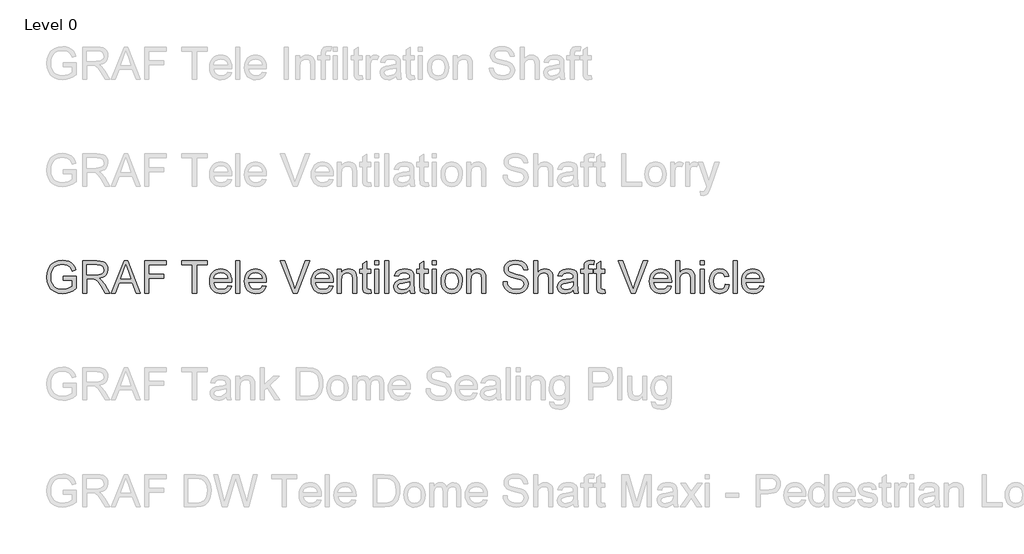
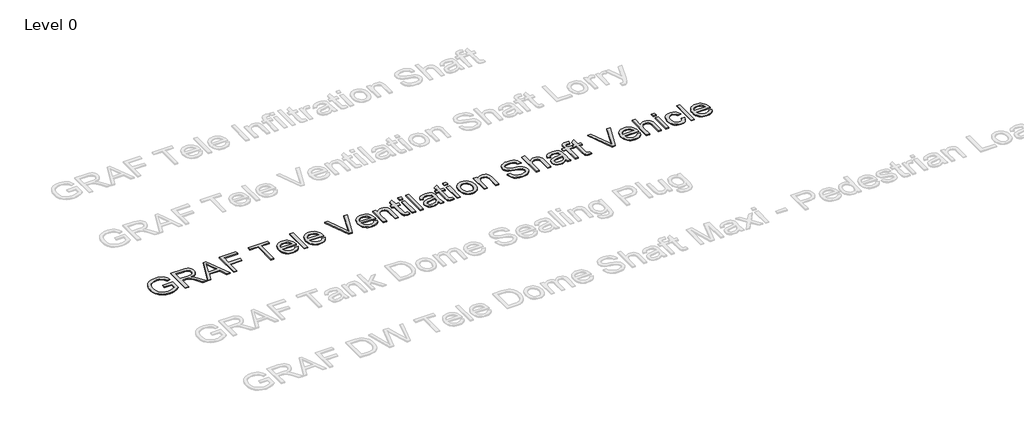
# One storey, part 2 of 25: 1 proxy.
"""IFC4 building model written with IfcOpenShell, lengths in millimetres."""

from ifc_helpers import new_model, si_unit, origin, origin_with_axes, place, context, project, spatial, polyline, outline, extrude, element, save

model = new_model("IFC4")

# Units and contexts
model_context = context("Model", 3, world=origin())
ifc_project = project(units=[si_unit("LENGTHUNIT", "METRE", prefix="MILLI")], contexts=[model_context])

# Site, building, storey
site = spatial("IfcSite", under=ifc_project)
building = spatial("IfcBuilding", under=site)
storey = spatial("IfcBuildingStorey", under=building, Name="Level 0", Elevation=0.0)

# Proxy
placement = place(None, origin())
element("IfcBuildingElementProxy", 1, Name="300mm Arial", ObjectType="300mm Arial", at=placement, inside=storey, context=model_context, shape_type="SweptSolid", body=[
    extrude(outline(polyline([(-15240.9940387, -8083.2545597), (-15240.9940387, -8045.5834434), (-15118.5629107, -8045.5834434), (-15118.5629107, -8158.2289103), (-15148.3153671, -8178.9222726), (-15179.0059225, -8193.7663111), (-15210.5610007, -8202.7058436), (-15242.9070251, -8205.6856877), (-15285.1674693, -8200.949207), (-15323.3628175, -8186.739765), (-15355.0926395, -8163.5540022), (-15377.9565055, -8131.8885595), (-15391.7796715, -8093.9047435), (-15396.3873935, -8051.7638609), (-15391.7980656, -8009.3194757), (-15378.0300819, -7969.8365406), (-15355.6536596, -7936.717964), (-15325.2390156, -7913.3666543), (-15288.1932987, -7899.5158972), (-15245.9236575, -7894.8989782), (-15214.8928112, -7897.5753197), (-15186.9889618, -7905.6043443), (-15163.4904994, -7918.4066377), (-15145.6758138, -7935.4027859), (-15132.4964413, -7957.4113262), (-15122.9039183, -7985.2507962), (-15157.6319786, -7995.0364573), (-15165.3850917, -7975.1800266), (-15174.8120678, -7960.1980323), (-15187.2832674, -7948.9040551), (-15204.169051, -7940.1116754), (-15224.3013932, -7934.4554897), (-15246.5122687, -7932.5700945), (-15272.5123287, -7934.6026425), (-15294.7415982, -7940.7002866), (-15313.1173039, -7950.0996716), (-15327.5566722, -7962.0374423), (-15346.9440533, -7991.0633317), (-15355.7732212, -8019.50061), (-15358.7162772, -8050.2187566), (-15355.175413, -8086.2436009), (-15344.5528204, -8115.8856927), (-15327.1703961, -8138.9334997), (-15303.3500369, -8155.1754898), (-15275.4737787, -8164.804801), (-15245.9236575, -8168.0145714), (-15219.831627, -8165.5957473), (-15194.3833899, -8158.3392749), (-15172.2828791, -8148.3420817), (-15156.234027, -8137.701095), (-15156.234027, -8083.2545597), (-15240.9940387, -8083.2545597)])), origin_with_axes(), (0.0, 0.0, 1.0), 10.0),
    extrude(outline(polyline([(-15057.3473467, -8200.9767982), (-15057.3473467, -7899.6078677), (-14927.4850024, -7899.6078677), (-14892.5821982, -7901.6404158), (-14867.1891434, -7907.7380598), (-14848.6294968, -7918.9952489), (-14834.2269167, -7936.5064318), (-14824.9838815, -7958.2206666), (-14821.9028698, -7982.087011), (-14827.0072325, -8011.7750881), (-14842.3203206, -8036.3863935), (-14853.9200997, -8046.4157764), (-14868.3019865, -8054.4310054), (-14905.4120827, -8064.4190016), (-14884.0013506, -8080.532233), (-14853.467145, -8119.3069952), (-14803.2144645, -8200.9767982), (-14846.9924219, -8200.9767982), (-14886.2086426, -8138.5104354), (-14914.5355562, -8097.1604991), (-14934.4379722, -8077.6259652), (-14952.3538253, -8070.4522663), (-14974.2060158, -8069.1278911), (-15019.6762304, -8069.1278911), (-15019.6762304, -8200.9767982), (-15057.3473467, -8200.9767982)]), holes=[polyline([(-15019.6762304, -8031.4567748), (-14935.3576771, -8031.4567748), (-14911.1418448, -8030.1232026), (-14892.3522719, -8026.1224859), (-14878.2072092, -8019.1879103), (-14867.9249074, -8009.0527613), (-14861.6617165, -7996.7930938), (-14859.5739861, -7983.4849626), (-14863.5563087, -7965.109257), (-14875.5032765, -7950.3020067), (-14896.058683, -7940.5347397), (-14925.8663217, -7937.278984), (-15019.6762304, -7937.278984), (-15019.6762304, -8031.4567748)])]), origin_with_axes(), (0.0, 0.0, 1.0), 10.0),
    extrude(outline(polyline([(-14791.0743586, -8200.9767982), (-14670.7769462, -7899.6078677), (-14638.6976362, -7899.6078677), (-14518.4002238, -8200.9767982), (-14558.2050557, -8200.9767982), (-14592.7123868, -8106.7990074), (-14716.835772, -8106.7990074), (-14751.2695268, -8200.9767982), (-14791.0743586, -8200.9767982)]), holes=[polyline([(-14703.003409, -8069.1278911), (-14606.4711735, -8069.1278911), (-14633.6208647, -7995.0364573), (-14654.7372912, -7937.278984), (-14673.499273, -7988.5617342), (-14703.003409, -8069.1278911)])]), origin_with_axes(), (0.0, 0.0, 1.0), 10.0),
    extrude(outline(polyline([(-14478.1539335, -8200.9767982), (-14478.1539335, -7899.6078677), (-14275.6716834, -7899.6078677), (-14275.6716834, -7937.278984), (-14440.4828172, -7937.278984), (-14440.4828172, -8026.7478853), (-14299.2161311, -8026.7478853), (-14299.2161311, -8064.4190016), (-14440.4828172, -8064.4190016), (-14440.4828172, -8200.9767982), (-14478.1539335, -8200.9767982)])), origin_with_axes(), (0.0, 0.0, 1.0), 10.0),
    extrude(outline(polyline([(-14030.8094274, -8200.9767982), (-14030.8094274, -7937.278984), (-14129.6961077, -7937.278984), (-14129.6961077, -7899.6078677), (-13894.2516308, -7899.6078677), (-13894.2516308, -7937.278984), (-13993.1383111, -7937.278984), (-13993.1383111, -8200.9767982), (-14030.8094274, -8200.9767982)])), origin_with_axes(), (0.0, 0.0, 1.0), 10.0),
    extrude(outline(polyline([(-13701.6286181, -8135.0523446), (-13664.6932658, -8139.7612342), (-13678.001397, -8167.5915071), (-13699.2373851, -8188.3952339), (-13727.9229837, -8201.3630743), (-13763.5799461, -8205.6856877), (-13786.9542484, -8203.8209859), (-13807.7809678, -8198.2268803), (-13826.0601045, -8188.9033709), (-13841.7916583, -8175.8504579), (-13854.4422004, -8159.4314246), (-13863.4783019, -8140.0095545), (-13868.8999628, -8117.5848477), (-13870.7071831, -8092.157304), (-13868.8815687, -8065.8675369), (-13863.4047255, -8042.6955698), (-13854.2766535, -8022.6414025), (-13841.4973527, -8005.7050351), (-13825.8071856, -7992.2497512), (-13807.9465147, -7982.638834), (-13787.9153401, -7976.8722838), (-13765.7136617, -7974.9501003), (-13744.2270539, -7976.8676852), (-13724.7959868, -7982.6204399), (-13707.4204603, -7992.2083644), (-13692.1004744, -8005.6314587), (-13679.5947859, -8022.5310379), (-13670.6621512, -8042.548417), (-13665.3025704, -8065.6835959), (-13663.5160434, -8091.9365748), (-13663.7367726, -8102.0901179), (-13833.0360668, -8102.0901179), (-13826.5153584, -8130.2882728), (-13811.3678173, -8151.0184232), (-13789.5064297, -8163.7655344), (-13762.8441821, -8168.0145714), (-13742.7946134, -8166.0464027), (-13725.9088298, -8160.1418967), (-13712.1868314, -8149.9331713), (-13701.6286181, -8135.0523446)]), holes=[polyline([(-13833.0360668, -8064.4190016), (-13701.1871597, -8064.4190016), (-13706.2823254, -8044.5165856), (-13716.2703215, -8030.2795524), (-13738.2328766, -8017.0358006), (-13765.8608145, -8012.6212166), (-13791.2538692, -8016.1436868), (-13812.2507341, -8026.7110971), (-13826.8464522, -8043.1830134), (-13833.0360668, -8064.4190016)])]), origin_with_axes(), (0.0, 0.0, 1.0), 10.0),
    extrude(outline(polyline([(-13625.8449271, -8200.9767982), (-13625.8449271, -7899.6078677), (-13588.1738108, -7899.6078677), (-13588.1738108, -8200.9767982), (-13625.8449271, -8200.9767982)])), origin_with_axes(), (0.0, 0.0, 1.0), 10.0),
    extrude(outline(polyline([(-13376.71524, -8135.0523446), (-13339.7798877, -8139.7612342), (-13353.0880188, -8167.5915071), (-13374.324007, -8188.3952339), (-13403.0096056, -8201.3630743), (-13438.666568, -8205.6856877), (-13462.0408702, -8203.8209859), (-13482.8675897, -8198.2268803), (-13501.1467263, -8188.9033709), (-13516.8782801, -8175.8504579), (-13529.5288222, -8159.4314246), (-13538.5649238, -8140.0095545), (-13543.9865847, -8117.5848477), (-13545.793805, -8092.157304), (-13543.9681906, -8065.8675369), (-13538.4913474, -8042.6955698), (-13529.3632754, -8022.6414025), (-13516.5839745, -8005.7050351), (-13500.8938074, -7992.2497512), (-13483.0331366, -7982.638834), (-13463.0019619, -7976.8722838), (-13440.8002835, -7974.9501003), (-13419.3136758, -7976.8676852), (-13399.8826086, -7982.6204399), (-13382.5070821, -7992.2083644), (-13367.1870963, -8005.6314587), (-13354.6814077, -8022.5310379), (-13345.748773, -8042.548417), (-13340.3891922, -8065.6835959), (-13338.6026653, -8091.9365748), (-13338.8233945, -8102.0901179), (-13508.1226887, -8102.0901179), (-13501.6019803, -8130.2882728), (-13486.4544391, -8151.0184232), (-13464.5930516, -8163.7655344), (-13437.930804, -8168.0145714), (-13417.8812352, -8166.0464027), (-13400.9954517, -8160.1418967), (-13387.2734532, -8149.9331713), (-13376.71524, -8135.0523446)]), holes=[polyline([(-13508.1226887, -8064.4190016), (-13376.2737816, -8064.4190016), (-13381.3689472, -8044.5165856), (-13391.3569434, -8030.2795524), (-13413.3194985, -8017.0358006), (-13440.9474363, -8012.6212166), (-13466.3404911, -8016.1436868), (-13487.3373559, -8026.7110971), (-13501.9330741, -8043.1830134), (-13508.1226887, -8064.4190016)])]), origin_with_axes(), (0.0, 0.0, 1.0), 10.0),
    extrude(outline(polyline([(-13089.4729781, -8200.9767982), (-13209.4025086, -7899.6078677), (-13169.0826419, -7899.6078677), (-13088.8107906, -8116.7318213), (-13072.5504064, -8165.6601266), (-13056.5107514, -8116.7318213), (-12976.0181708, -7899.6078677), (-12935.6983042, -7899.6078677), (-13050.5510631, -8200.9767982), (-13089.4729781, -8200.9767982)])), origin_with_axes(), (0.0, 0.0, 1.0), 10.0),
    extrude(outline(polyline([(-12750.4329314, -8135.0523446), (-12713.4975791, -8139.7612342), (-12726.8057102, -8167.5915071), (-12748.0416984, -8188.3952339), (-12776.727297, -8201.3630743), (-12812.3842594, -8205.6856877), (-12835.7585616, -8203.8209859), (-12856.5852811, -8198.2268803), (-12874.8644177, -8188.9033709), (-12890.5959716, -8175.8504579), (-12903.2465137, -8159.4314246), (-12912.2826152, -8140.0095545), (-12917.7042761, -8117.5848477), (-12919.5114964, -8092.157304), (-12917.685882, -8065.8675369), (-12912.2090388, -8042.6955698), (-12903.0809668, -8022.6414025), (-12890.301666, -8005.7050351), (-12874.6114989, -7992.2497512), (-12856.750828, -7982.638834), (-12836.7196534, -7976.8722838), (-12814.5179749, -7974.9501003), (-12793.0313672, -7976.8676852), (-12773.6003, -7982.6204399), (-12756.2247736, -7992.2083644), (-12740.9047877, -8005.6314587), (-12728.3990991, -8022.5310379), (-12719.4664644, -8042.548417), (-12714.1068836, -8065.6835959), (-12712.3203567, -8091.9365748), (-12712.5410859, -8102.0901179), (-12881.8403801, -8102.0901179), (-12875.3196717, -8130.2882728), (-12860.1721306, -8151.0184232), (-12838.310743, -8163.7655344), (-12811.6484954, -8168.0145714), (-12791.5989266, -8166.0464027), (-12774.7131431, -8160.1418967), (-12760.9911447, -8149.9331713), (-12750.4329314, -8135.0523446)]), holes=[polyline([(-12881.8403801, -8064.4190016), (-12749.991473, -8064.4190016), (-12755.0866386, -8044.5165856), (-12765.0746348, -8030.2795524), (-12787.0371899, -8017.0358006), (-12814.6651277, -8012.6212166), (-12840.0581825, -8016.1436868), (-12861.0550473, -8026.7110971), (-12875.6507655, -8043.1830134), (-12881.8403801, -8064.4190016)])]), origin_with_axes(), (0.0, 0.0, 1.0), 10.0),
    extrude(outline(polyline([(-12674.6492404, -8200.9767982), (-12674.6492404, -7979.6589899), (-12636.9781241, -7979.6589899), (-12636.9781241, -8010.5610775), (-12623.8907221, -7994.981275), (-12608.1729639, -7983.8528446), (-12589.8248493, -7977.1757864), (-12568.8463786, -7974.9501003), (-12550.2775349, -7976.7435251), (-12533.2721896, -7982.1237992), (-12519.0903387, -7990.4195382), (-12508.991978, -8000.9593574), (-12497.6980007, -8028.6608716), (-12495.7114379, -8065.0811892), (-12495.7114379, -8200.9767982), (-12533.3825542, -8200.9767982), (-12533.3825542, -8070.1579607), (-12537.7235618, -8036.8278519), (-12543.7292353, -8026.9042351), (-12553.064241, -8019.2063044), (-12565.0296029, -8014.2674886), (-12578.9263452, -8012.6212166), (-12600.9900679, -8016.3184307), (-12619.7980349, -8027.4100729), (-12627.3143239, -8036.4645685), (-12632.6831018, -8048.8391991), (-12636.9781241, -8083.5488653), (-12636.9781241, -8200.9767982), (-12674.6492404, -8200.9767982)])), origin_with_axes(), (0.0, 0.0, 1.0), 10.0),
    extrude(outline(polyline([(-12363.8625309, -8169.5596758), (-12359.1536413, -8202.0804442), (-12387.3334021, -8205.6856877), (-12405.4148022, -8204.1221892), (-12418.8976773, -8199.4316938), (-12428.425821, -8192.2028126), (-12434.6430267, -8183.0241568), (-12438.0643293, -8167.2604133), (-12439.2047635, -8140.276269), (-12439.2047635, -8017.3301062), (-12467.4581007, -8017.3301062), (-12467.4581007, -7979.6589899), (-12439.2047635, -7979.6589899), (-12439.2047635, -7925.8746422), (-12401.5336472, -7903.7281461), (-12401.5336472, -7979.6589899), (-12363.8625309, -7979.6589899), (-12363.8625309, -8017.3301062), (-12401.5336472, -8017.3301062), (-12401.5336472, -8139.172623), (-12399.5470844, -8158.5967923), (-12393.1091495, -8165.4761856), (-12380.2700678, -8168.0145714), (-12363.8625309, -8169.5596758)])), origin_with_axes(), (0.0, 0.0, 1.0), 10.0),
    extrude(outline(polyline([(-12326.1914146, -8200.9767982), (-12326.1914146, -7979.6589899), (-12288.5202982, -7979.6589899), (-12288.5202982, -8200.9767982), (-12326.1914146, -8200.9767982)])), origin_with_axes(), (0.0, 0.0, 1.0), 10.0),
    extrude(outline(polyline([(-12326.1914146, -7937.278984), (-12326.1914146, -7899.6078677), (-12288.5202982, -7899.6078677), (-12288.5202982, -7937.278984), (-12326.1914146, -7937.278984)])), origin_with_axes(), (0.0, 0.0, 1.0), 10.0),
    extrude(outline(polyline([(-12232.0136238, -8200.9767982), (-12232.0136238, -7899.6078677), (-12194.3425075, -7899.6078677), (-12194.3425075, -8200.9767982), (-12232.0136238, -8200.9767982)])), origin_with_axes(), (0.0, 0.0, 1.0), 10.0),
    extrude(outline(polyline([(-11996.5691469, -8172.7234609), (-12014.5677735, -8188.1561106), (-12033.099829, -8198.2544714), (-12052.5883777, -8203.8278836), (-12073.4564839, -8205.6856877), (-12104.9379856, -8201.2159215), (-12128.1605365, -8187.8066228), (-12142.4803432, -8167.4443543), (-12147.2536121, -8142.1156789), (-12145.4509903, -8126.4990883), (-12140.043125, -8112.3172373), (-12131.7014008, -8100.1771315), (-12121.0972022, -8090.685776), (-12094.7200632, -8078.324941), (-12062.1257184, -8072.6595583), (-12023.6084735, -8066.6998699), (-11996.7898761, -8059.710112), (-11996.5691469, -8051.3224025), (-11999.1627149, -8034.5101954), (-12006.9434191, -8023.5105237), (-12024.3442375, -8015.3435434), (-12048.587661, -8012.6212166), (-12071.0284627, -8014.4330355), (-12086.7002357, -8019.868492), (-12097.3872077, -8029.9208675), (-12104.8736063, -8045.5834434), (-12142.5447226, -8040.8745539), (-12136.0056201, -8020.2731621), (-12126.2475502, -8004.0863544), (-12112.3600049, -7991.7071252), (-12093.4324762, -7982.5284694), (-12070.2835017, -7976.8446926), (-12043.7316187, -7974.9501003), (-12018.2649875, -7976.6239634), (-11998.0774631, -7981.6455527), (-11982.8563455, -7989.1963306), (-11972.2889352, -7998.4577598), (-11965.2807832, -8009.9080869), (-11960.7374405, -8024.0255585), (-11958.8980306, -8056.9877853), (-11958.8980306, -8103.8559515), (-11956.9850442, -8169.3021584), (-11949.4802515, -8200.9767982), (-11987.1513678, -8200.9767982), (-11996.5691469, -8172.7234609)]), holes=[polyline([(-11996.5691469, -8097.3812283), (-12057.3432525, -8108.932723), (-12089.7536563, -8115.0395641), (-12104.4321479, -8124.972378), (-12109.5824958, -8139.4669286), (-12106.7773956, -8150.6689353), (-12098.3620949, -8159.8475911), (-12084.5205349, -8165.9728263), (-12065.4366564, -8168.0145714), (-12045.2031466, -8165.7612942), (-12027.3240817, -8159.0014625), (-12012.8295311, -8149.0410575), (-12002.7495644, -8137.1860602), (-11998.2797982, -8124.972378), (-11996.7898761, -8108.0498062), (-11996.5691469, -8097.3812283)])]), origin_with_axes(), (0.0, 0.0, 1.0), 10.0),
    extrude(outline(polyline([(-11827.0491235, -8169.5596758), (-11822.340234, -8202.0804442), (-11850.5199948, -8205.6856877), (-11868.6013949, -8204.1221892), (-11882.08427, -8199.4316938), (-11891.6124136, -8192.2028126), (-11897.8296194, -8183.0241568), (-11901.2509219, -8167.2604133), (-11902.3913561, -8140.276269), (-11902.3913561, -8017.3301062), (-11930.6446933, -8017.3301062), (-11930.6446933, -7979.6589899), (-11902.3913561, -7979.6589899), (-11902.3913561, -7925.8746422), (-11864.7202398, -7903.7281461), (-11864.7202398, -7979.6589899), (-11827.0491235, -7979.6589899), (-11827.0491235, -8017.3301062), (-11864.7202398, -8017.3301062), (-11864.7202398, -8139.172623), (-11862.733677, -8158.5967923), (-11856.2957421, -8165.4761856), (-11843.4566605, -8168.0145714), (-11827.0491235, -8169.5596758)])), origin_with_axes(), (0.0, 0.0, 1.0), 10.0),
    extrude(outline(polyline([(-11789.3780072, -8200.9767982), (-11789.3780072, -7979.6589899), (-11751.7068909, -7979.6589899), (-11751.7068909, -8200.9767982), (-11789.3780072, -8200.9767982)])), origin_with_axes(), (0.0, 0.0, 1.0), 10.0),
    extrude(outline(polyline([(-11789.3780072, -7937.278984), (-11789.3780072, -7899.6078677), (-11751.7068909, -7899.6078677), (-11751.7068909, -7937.278984), (-11789.3780072, -7937.278984)])), origin_with_axes(), (0.0, 0.0, 1.0), 10.0),
    extrude(outline(polyline([(-11704.6179955, -8090.317894), (-11702.580849, -8061.6552881), (-11696.4694093, -8036.9566106), (-11686.2836766, -8016.2218617), (-11672.0236507, -7999.4510412), (-11657.6670559, -7988.7318796), (-11641.8205389, -7981.0753356), (-11624.4840999, -7976.4814091), (-11605.6577388, -7974.9501003), (-11584.8747053, -7976.8148022), (-11566.0828332, -7982.4089078), (-11549.2821223, -7991.7324171), (-11534.4725727, -8004.7853302), (-11522.3853499, -8021.1261885), (-11513.7516194, -8040.3135338), (-11508.571381, -8062.3473661), (-11506.8446349, -8087.2276853), (-11509.8980555, -8125.2850777), (-11519.0583171, -8154.2557848), (-11534.0587055, -8175.9516255), (-11554.6325061, -8192.1844185), (-11579.0690676, -8202.3103704), (-11605.6577388, -8205.6856877), (-11626.7442749, -8203.8278836), (-11645.710891, -8198.2544714), (-11662.5575871, -8188.965451), (-11677.2843633, -8175.9608225), (-11689.2428274, -8159.461315), (-11697.7845874, -8139.6876578), (-11702.9096435, -8116.6398508), (-11704.6179955, -8090.317894)]), holes=[polyline([(-11666.9468792, -8090.2443176), (-11662.5874776, -8124.3377815), (-11649.5092726, -8148.6271903), (-11629.8275859, -8163.1677261), (-11605.6577388, -8168.0145714), (-11581.5982563, -8163.140135), (-11561.9533578, -8148.5168257), (-11548.8751528, -8123.9055202), (-11544.5157512, -8089.0670952), (-11548.902744, -8055.9669127), (-11562.0637224, -8032.0085978), (-11581.7362121, -8017.4680619), (-11605.6577388, -8012.6212166), (-11629.8275859, -8017.4496678), (-11649.5092726, -8031.9350214), (-11662.5874776, -8056.1692478), (-11666.9468792, -8090.2443176)])]), origin_with_axes(), (0.0, 0.0, 1.0), 10.0),
    extrude(outline(polyline([(-11464.464629, -8200.9767982), (-11464.464629, -7979.6589899), (-11426.7935127, -7979.6589899), (-11426.7935127, -8010.5610775), (-11413.7061108, -7994.981275), (-11397.9883525, -7983.8528446), (-11379.640238, -7977.1757864), (-11358.6617672, -7974.9501003), (-11340.0929235, -7976.7435251), (-11323.0875783, -7982.1237992), (-11308.9057274, -7990.4195382), (-11298.8073666, -8000.9593574), (-11287.5133894, -8028.6608716), (-11285.5268266, -8065.0811892), (-11285.5268266, -8200.9767982), (-11323.1979429, -8200.9767982), (-11323.1979429, -8070.1579607), (-11327.5389504, -8036.8278519), (-11333.544624, -8026.9042351), (-11342.8796296, -8019.2063044), (-11354.8449915, -8014.2674886), (-11368.7417339, -8012.6212166), (-11390.8054566, -8016.3184307), (-11409.6134236, -8027.4100729), (-11417.1297126, -8036.4645685), (-11422.4984904, -8048.8391991), (-11426.7935127, -8083.5488653), (-11426.7935127, -8200.9767982), (-11464.464629, -8200.9767982)])), origin_with_axes(), (0.0, 0.0, 1.0), 10.0),
    extrude(outline(polyline([(-11125.4245823, -8097.3812283), (-11087.753466, -8097.3812283), (-11083.4308525, -8118.2861227), (-11075.6133601, -8135.0891328), (-11063.418072, -8148.4248552), (-11045.9620713, -8158.9278861), (-11024.6249156, -8165.7429001), (-11000.7861623, -8168.0145714), (-10979.7984945, -8166.2947231), (-10961.4227888, -8161.1351781), (-10946.5327651, -8152.9681978), (-10936.002143, -8142.2260435), (-10929.738952, -8129.8927997), (-10927.6512217, -8116.9525505), (-10929.2147202, -8104.3433951), (-10933.9052156, -8093.444891), (-10943.4333593, -8084.1466736), (-10959.5098025, -8076.3383782), (-11014.361008, -8061.9541922), (-11050.3674582, -8052.4352456), (-11073.4060682, -8043.3761514), (-11092.1588529, -8030.7026167), (-11105.44859, -8015.3435434), (-11113.3672499, -7997.6300253), (-11116.0068032, -7977.8931563), (-11112.7418505, -7955.8294336), (-11102.9469924, -7935.2556331), (-11086.8797462, -7917.8180265), (-11064.7976295, -7905.1628859), (-11038.2917317, -7897.4649551), (-11008.9531426, -7894.8989782), (-10977.1681382, -7897.5845168), (-10949.3562594, -7905.6411325), (-10926.5107875, -7918.9032784), (-10909.6250039, -7937.2054076), (-10898.938032, -7959.407086), (-10894.6889949, -7984.3678794), (-10932.3601112, -7984.3678794), (-10939.2762927, -7961.8902895), (-10953.6972669, -7945.6666935), (-10976.2300392, -7935.8442443), (-11007.4816146, -7932.5700945), (-11039.4689541, -7935.8074561), (-11061.4131151, -7945.5195407), (-11074.105044, -7959.8117562), (-11078.3356869, -7976.7895103), (-11075.3374487, -7991.2656668), (-11066.3427339, -8002.909132), (-11045.0791545, -8013.3201924), (-11004.8328643, -8023.9519821), (-10963.298987, -8034.0503429), (-10938.1726467, -8042.8611167), (-10916.6975353, -8056.5279328), (-10901.715541, -8073.3953223), (-10892.9139643, -8093.2793441), (-10889.9801054, -8115.9960573), (-10893.3554227, -8139.2186082), (-10903.4813746, -8161.0616017), (-10919.9440939, -8179.8603717), (-10942.3297133, -8193.9502521), (-10969.2494783, -8202.7518288), (-10999.3146343, -8205.6856877), (-11036.2223955, -8202.5219026), (-11066.6002513, -8193.0305471), (-11090.7976895, -8177.1748331), (-11109.1641981, -8154.9179724), (-11120.9548161, -8127.8050693), (-11125.4245823, -8097.3812283)])), origin_with_axes(), (0.0, 0.0, 1.0), 10.0),
    extrude(outline(polyline([(-10838.1823205, -8200.9767982), (-10838.1823205, -7899.6078677), (-10800.5112042, -7899.6078677), (-10800.5112042, -8010.4139247), (-10786.6742426, -7994.8985015), (-10771.1358268, -7983.8160564), (-10753.8959568, -7977.1665894), (-10734.9546326, -7974.9501003), (-10712.2011312, -7977.3689245), (-10692.6482032, -7984.6253968), (-10677.2523417, -7996.1493003), (-10666.9700399, -8011.3704179), (-10661.1758985, -8032.2845093), (-10659.244518, -8060.8873344), (-10659.244518, -8200.9767982), (-10696.9156343, -8200.9767982), (-10696.9156343, -8064.7868836), (-10699.9138726, -8041.2056477), (-10708.9085874, -8025.0556281), (-10723.403138, -8015.7298195), (-10742.9008837, -8012.6212166), (-10758.8209771, -8014.718144), (-10773.7661831, -8021.0089261), (-10786.1454122, -8030.8865577), (-10794.3675748, -8043.7440334), (-10798.9752968, -8060.8321521), (-10800.5112042, -8083.4017125), (-10800.5112042, -8200.9767982), (-10838.1823205, -8200.9767982)])), origin_with_axes(), (0.0, 0.0, 1.0), 10.0),
    extrude(outline(polyline([(-10466.1800469, -8172.7234609), (-10484.1786736, -8188.1561106), (-10502.7107291, -8198.2544714), (-10522.1992778, -8203.8278836), (-10543.0673839, -8205.6856877), (-10574.5488857, -8201.2159215), (-10597.7714366, -8187.8066228), (-10612.0912433, -8167.4443543), (-10616.8645122, -8142.1156789), (-10615.0618904, -8126.4990883), (-10609.6540251, -8112.3172373), (-10601.3123008, -8100.1771315), (-10590.7081023, -8090.685776), (-10564.3309633, -8078.324941), (-10531.7366185, -8072.6595583), (-10493.2193736, -8066.6998699), (-10466.4007761, -8059.710112), (-10466.1800469, -8051.3224025), (-10468.773615, -8034.5101954), (-10476.5543192, -8023.5105237), (-10493.9551376, -8015.3435434), (-10518.1985611, -8012.6212166), (-10540.6393628, -8014.4330355), (-10556.3111358, -8019.868492), (-10566.9981077, -8029.9208675), (-10574.4845063, -8045.5834434), (-10612.1556226, -8040.8745539), (-10605.6165202, -8020.2731621), (-10595.8584502, -8004.0863544), (-10581.9709049, -7991.7071252), (-10563.0433763, -7982.5284694), (-10539.8944017, -7976.8446926), (-10513.3425187, -7974.9501003), (-10487.8758876, -7976.6239634), (-10467.6883631, -7981.6455527), (-10452.4672456, -7989.1963306), (-10441.8998353, -7998.4577598), (-10434.8916832, -8009.9080869), (-10430.3483406, -8024.0255585), (-10428.5089306, -8056.9877853), (-10428.5089306, -8103.8559515), (-10426.5959443, -8169.3021584), (-10419.0911516, -8200.9767982), (-10456.7622679, -8200.9767982), (-10466.1800469, -8172.7234609)]), holes=[polyline([(-10466.1800469, -8097.3812283), (-10526.9541525, -8108.932723), (-10559.3645563, -8115.0395641), (-10574.0430479, -8124.972378), (-10579.1933959, -8139.4669286), (-10576.3882956, -8150.6689353), (-10567.972995, -8159.8475911), (-10554.1314349, -8165.9728263), (-10535.0475564, -8168.0145714), (-10514.8140467, -8165.7612942), (-10496.9349817, -8159.0014625), (-10482.4404311, -8149.0410575), (-10472.3604645, -8137.1860602), (-10467.8906982, -8124.972378), (-10466.4007761, -8108.0498062), (-10466.1800469, -8097.3812283)])]), origin_with_axes(), (0.0, 0.0, 1.0), 10.0),
    extrude(outline(polyline([(-10367.2933666, -8200.9767982), (-10367.2933666, -8017.3301062), (-10400.2555934, -8017.3301062), (-10400.2555934, -7979.6589899), (-10367.2933666, -7979.6589899), (-10367.2933666, -7957.365341), (-10363.3202411, -7925.9482186), (-10355.741872, -7913.4218366), (-10344.0432245, -7903.5074169), (-10327.6724758, -7897.0510879), (-10306.0778026, -7894.8989782), (-10271.7176243, -7899.0192565), (-10277.2358542, -7934.3359281), (-10298.9408919, -7932.5700945), (-10313.2606986, -7934.133593), (-10322.6692806, -7938.8240884), (-10327.8840079, -7947.782015), (-10329.6222503, -7962.1478069), (-10329.6222503, -7979.6589899), (-10287.2422445, -7979.6589899), (-10287.2422445, -8017.3301062), (-10329.6222503, -8017.3301062), (-10329.6222503, -8200.9767982), (-10367.2933666, -8200.9767982)])), origin_with_axes(), (0.0, 0.0, 1.0), 10.0),
    extrude(outline(polyline([(-10174.2288956, -8169.5596758), (-10169.520006, -8202.0804442), (-10197.6997669, -8205.6856877), (-10215.7811669, -8204.1221892), (-10229.264042, -8199.4316938), (-10238.7921857, -8192.2028126), (-10245.0093914, -8183.0241568), (-10248.430694, -8167.2604133), (-10249.5711282, -8140.276269), (-10249.5711282, -8017.3301062), (-10277.8244654, -8017.3301062), (-10277.8244654, -7979.6589899), (-10249.5711282, -7979.6589899), (-10249.5711282, -7925.8746422), (-10211.9000119, -7903.7281461), (-10211.9000119, -7979.6589899), (-10174.2288956, -7979.6589899), (-10174.2288956, -8017.3301062), (-10211.9000119, -8017.3301062), (-10211.9000119, -8139.172623), (-10209.9134491, -8158.5967923), (-10203.4755142, -8165.4761856), (-10190.6364325, -8168.0145714), (-10174.2288956, -8169.5596758)])), origin_with_axes(), (0.0, 0.0, 1.0), 10.0),
    extrude(outline(polyline([(-9925.0992084, -8200.9767982), (-10045.0287389, -7899.6078677), (-10004.7088722, -7899.6078677), (-9924.4370208, -8116.7318213), (-9908.1766367, -8165.6601266), (-9892.1369817, -8116.7318213), (-9811.6444011, -7899.6078677), (-9771.3245344, -7899.6078677), (-9886.1772933, -8200.9767982), (-9925.0992084, -8200.9767982)])), origin_with_axes(), (0.0, 0.0, 1.0), 10.0),
    extrude(outline(polyline([(-9586.0591617, -8135.0523446), (-9549.1238094, -8139.7612342), (-9562.4319405, -8167.5915071), (-9583.6679287, -8188.3952339), (-9612.3535273, -8201.3630743), (-9648.0104897, -8205.6856877), (-9671.3847919, -8203.8209859), (-9692.2115114, -8198.2268803), (-9710.490648, -8188.9033709), (-9726.2222018, -8175.8504579), (-9738.8727439, -8159.4314246), (-9747.9088455, -8140.0095545), (-9753.3305064, -8117.5848477), (-9755.1377267, -8092.157304), (-9753.3121123, -8065.8675369), (-9747.8352691, -8042.6955698), (-9738.7071971, -8022.6414025), (-9725.9278962, -8005.7050351), (-9710.2377291, -7992.2497512), (-9692.3770583, -7982.638834), (-9672.3458836, -7976.8722838), (-9650.1442052, -7974.9501003), (-9628.6575975, -7976.8676852), (-9609.2265303, -7982.6204399), (-9591.8510038, -7992.2083644), (-9576.531018, -8005.6314587), (-9564.0253294, -8022.5310379), (-9555.0926947, -8042.548417), (-9549.7331139, -8065.6835959), (-9547.946587, -8091.9365748), (-9548.1673162, -8102.0901179), (-9717.4666104, -8102.0901179), (-9710.945902, -8130.2882728), (-9695.7983608, -8151.0184232), (-9673.9369733, -8163.7655344), (-9647.2747257, -8168.0145714), (-9627.2251569, -8166.0464027), (-9610.3393734, -8160.1418967), (-9596.6173749, -8149.9331713), (-9586.0591617, -8135.0523446)]), holes=[polyline([(-9717.4666104, -8064.4190016), (-9585.6177033, -8064.4190016), (-9590.7128689, -8044.5165856), (-9600.7008651, -8030.2795524), (-9622.6634202, -8017.0358006), (-9650.291358, -8012.6212166), (-9675.6844128, -8016.1436868), (-9696.6812776, -8026.7110971), (-9711.2769958, -8043.1830134), (-9717.4666104, -8064.4190016)])]), origin_with_axes(), (0.0, 0.0, 1.0), 10.0),
    extrude(outline(polyline([(-9510.2754707, -8200.9767982), (-9510.2754707, -7899.6078677), (-9472.6043544, -7899.6078677), (-9472.6043544, -8010.4139247), (-9458.7673928, -7994.8985015), (-9443.228977, -7983.8160564), (-9425.989107, -7977.1665894), (-9407.0477828, -7974.9501003), (-9384.2942814, -7977.3689245), (-9364.7413534, -7984.6253968), (-9349.3454919, -7996.1493003), (-9339.0631901, -8011.3704179), (-9333.2690487, -8032.2845093), (-9331.3376682, -8060.8873344), (-9331.3376682, -8200.9767982), (-9369.0087845, -8200.9767982), (-9369.0087845, -8064.7868836), (-9372.0070228, -8041.2056477), (-9381.0017376, -8025.0556281), (-9395.4962882, -8015.7298195), (-9414.9940339, -8012.6212166), (-9430.9141273, -8014.718144), (-9445.8593333, -8021.0089261), (-9458.2385625, -8030.8865577), (-9466.460725, -8043.7440334), (-9471.068447, -8060.8321521), (-9472.6043544, -8083.4017125), (-9472.6043544, -8200.9767982), (-9510.2754707, -8200.9767982)])), origin_with_axes(), (0.0, 0.0, 1.0), 10.0),
    extrude(outline(polyline([(-9279.5398833, -7937.278984), (-9279.5398833, -7899.6078677), (-9241.868767, -7899.6078677), (-9241.868767, -7937.278984), (-9279.5398833, -7937.278984)])), origin_with_axes(), (0.0, 0.0, 1.0), 10.0),
    extrude(outline(polyline([(-9279.5398833, -8200.9767982), (-9279.5398833, -7979.6589899), (-9241.868767, -7979.6589899), (-9241.868767, -8200.9767982), (-9279.5398833, -8200.9767982)])), origin_with_axes(), (0.0, 0.0, 1.0), 10.0),
    extrude(outline(polyline([(-9044.0954064, -8120.925676), (-9006.4242901, -8125.6345656), (-9016.927321, -8159.1394183), (-9036.6641901, -8184.4588966), (-9063.7770931, -8200.3789899), (-9096.4082261, -8205.6856877), (-9117.5361489, -8203.8347814), (-9136.4797724, -8198.2820626), (-9153.2390966, -8189.0275311), (-9167.8141214, -8176.0711871), (-9179.6116371, -8159.6567523), (-9188.038434, -8140.0279486), (-9193.0945122, -8117.184776), (-9194.7798716, -8091.1272344), (-9191.901195, -8057.6039876), (-9183.2651652, -8028.550507), (-9168.7338263, -8005.0888328), (-9148.1692228, -7988.341005), (-9123.5671144, -7978.2978265), (-9096.9232609, -7974.9501003), (-9065.0922713, -7979.5486253), (-9039.6440342, -7993.3442001), (-9021.3878902, -8015.6010608), (-9011.1331796, -8045.5834434), (-9048.8042959, -8050.292333), (-9055.637704, -8033.8572048), (-9066.2786907, -8022.0757839), (-9080.1386449, -8014.9848585), (-9096.6289553, -8012.6212166), (-9120.9735463, -8017.2749239), (-9140.2965481, -8031.2360456), (-9152.9057035, -8055.2587399), (-9157.1087553, -8090.0971648), (-9152.997674, -8125.4046393), (-9140.6644301, -8149.5101071), (-9121.6909162, -8163.3884553), (-9097.6590249, -8168.0145714), (-9078.1520821, -8165.1266977), (-9062.1584123, -8156.4630768), (-9050.5241442, -8141.8029793), (-9044.0954064, -8120.925676)])), origin_with_axes(), (0.0, 0.0, 1.0), 10.0),
    extrude(outline(polyline([(-8973.4620633, -8200.9767982), (-8973.4620633, -7899.6078677), (-8935.790947, -7899.6078677), (-8935.790947, -8200.9767982), (-8973.4620633, -8200.9767982)])), origin_with_axes(), (0.0, 0.0, 1.0), 10.0),
    extrude(outline(polyline([(-8724.3323762, -8135.0523446), (-8687.3970239, -8139.7612342), (-8700.705155, -8167.5915071), (-8721.9411432, -8188.3952339), (-8750.6267418, -8201.3630743), (-8786.2837042, -8205.6856877), (-8809.6580064, -8203.8209859), (-8830.4847259, -8198.2268803), (-8848.7638625, -8188.9033709), (-8864.4954163, -8175.8504579), (-8877.1459584, -8159.4314246), (-8886.18206, -8140.0095545), (-8891.6037209, -8117.5848477), (-8893.4109412, -8092.157304), (-8891.5853268, -8065.8675369), (-8886.1084836, -8042.6955698), (-8876.9804115, -8022.6414025), (-8864.2011107, -8005.7050351), (-8848.5109436, -7992.2497512), (-8830.6502728, -7982.638834), (-8810.6190981, -7976.8722838), (-8788.4174197, -7974.9501003), (-8766.930812, -7976.8676852), (-8747.4997448, -7982.6204399), (-8730.1242183, -7992.2083644), (-8714.8042325, -8005.6314587), (-8702.2985439, -8022.5310379), (-8693.3659092, -8042.548417), (-8688.0063284, -8065.6835959), (-8686.2198015, -8091.9365748), (-8686.4405307, -8102.0901179), (-8855.7398249, -8102.0901179), (-8849.2191165, -8130.2882728), (-8834.0715753, -8151.0184232), (-8812.2101878, -8163.7655344), (-8785.5479402, -8168.0145714), (-8765.4983714, -8166.0464027), (-8748.6125879, -8160.1418967), (-8734.8905894, -8149.9331713), (-8724.3323762, -8135.0523446)]), holes=[polyline([(-8855.7398249, -8064.4190016), (-8723.8909178, -8064.4190016), (-8728.9860834, -8044.5165856), (-8738.9740796, -8030.2795524), (-8760.9366347, -8017.0358006), (-8788.5645725, -8012.6212166), (-8813.9576272, -8016.1436868), (-8834.9544921, -8026.7110971), (-8849.5502103, -8043.1830134), (-8855.7398249, -8064.4190016)])]), origin_with_axes(), (0.0, 0.0, 1.0), 10.0),
])

save(model, "model.ifc")
